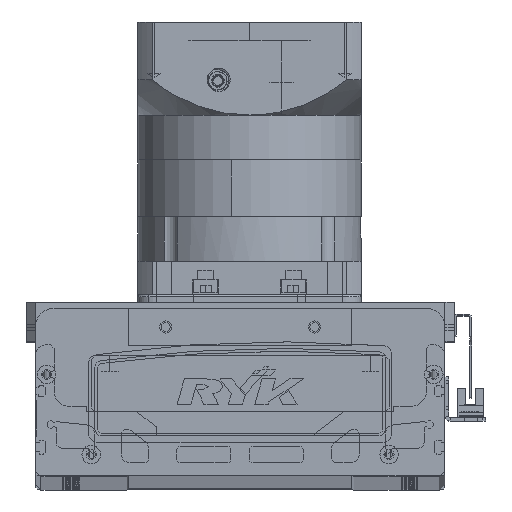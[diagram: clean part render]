
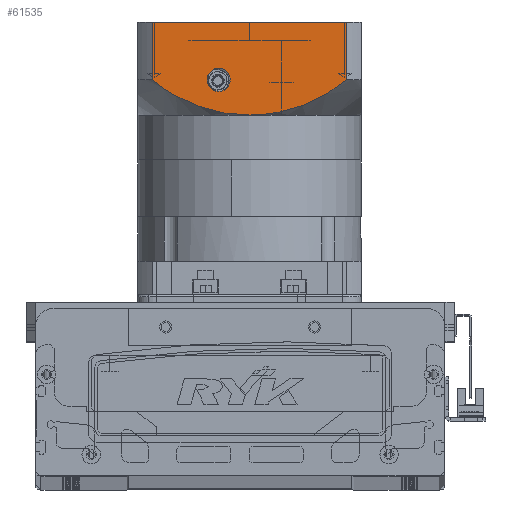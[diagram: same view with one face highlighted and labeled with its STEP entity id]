
A CAD part, top view. The second image highlights one B-rep face of the part: STEP entity #61535.
In plain terms, the highlighted planar face has unit normal (0, 0, 1) as drawn and (0, -1, 0) by its records, which use the part's own axes.
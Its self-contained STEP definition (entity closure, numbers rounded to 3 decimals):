
#317 = CARTESIAN_POINT ( 'NONE',  ( -60., -60., -150.5 ) ) ;
#546 = VECTOR ( 'NONE', #51982, 1000. ) ;
#5080 = CARTESIAN_POINT ( 'NONE',  ( 52.156, -60., -119.5 ) ) ;
#6071 = VERTEX_POINT ( 'NONE', #17658 ) ;
#6221 = DIRECTION ( 'NONE',  ( 1., 0., 0. ) ) ;
#6306 = VECTOR ( 'NONE', #18643, 1000. ) ;
#6689 = VERTEX_POINT ( 'NONE', #82192 ) ;
#8294 = LINE ( 'NONE', #12012, #6306 ) ;
#8899 = DIRECTION ( 'NONE',  ( 0., 0., 1. ) ) ;
#9509 = LINE ( 'NONE', #317, #546 ) ;
#9684 = CARTESIAN_POINT ( 'NONE',  ( -4.747, -60., -100.604 ) ) ;
#9739 = CARTESIAN_POINT ( 'NONE',  ( -32.118, -60., -107.084 ) ) ;
#10070 = ORIENTED_EDGE ( 'NONE', *, *, #70928, .T. ) ;
#10504 = VERTEX_POINT ( 'NONE', #59205 ) ;
#11325 = DIRECTION ( 'NONE',  ( 0., 1., 0. ) ) ;
#11455 = CARTESIAN_POINT ( 'NONE',  ( 41.545, -60., -111.931 ) ) ;
#12012 = CARTESIAN_POINT ( 'NONE',  ( 52.156, -60., -150.5 ) ) ;
#12511 = CARTESIAN_POINT ( 'NONE',  ( 23.329, -60., -103.886 ) ) ;
#12600 = DIRECTION ( 'NONE',  ( 0., -1., 0. ) ) ;
#12608 = ORIENTED_EDGE ( 'NONE', *, *, #15616, .F. ) ;
#12938 = CARTESIAN_POINT ( 'NONE',  ( -18.792, -60., -102.562 ) ) ;
#13784 = CARTESIAN_POINT ( 'NONE',  ( -48.52, -60., -116.438 ) ) ;
#14173 = CARTESIAN_POINT ( 'NONE',  ( -52.156, -60., -150.5 ) ) ;
#15616 = EDGE_CURVE ( 'NONE', #19874, #23933, #66236, .T. ) ;
#16413 = CARTESIAN_POINT ( 'NONE',  ( -23.319, -60., -103.777 ) ) ;
#16712 = EDGE_CURVE ( 'NONE', #6689, #23041, #52662, .T. ) ;
#17658 = CARTESIAN_POINT ( 'NONE',  ( 16.5, -60., -125.75 ) ) ;
#18625 = CARTESIAN_POINT ( 'NONE',  ( 15.267, -60., -101.938 ) ) ;
#18643 = DIRECTION ( 'NONE',  ( 0., 0., 1. ) ) ;
#18746 = CARTESIAN_POINT ( 'NONE',  ( 16.5, -60., -113.25 ) ) ;
#19874 = VERTEX_POINT ( 'NONE', #14173 ) ;
#22842 = AXIS2_PLACEMENT_3D ( 'NONE', #76198, #12600, #6221 ) ;
#23041 = VERTEX_POINT ( 'NONE', #27769 ) ;
#23933 = VERTEX_POINT ( 'NONE', #53131 ) ;
#27415 = ORIENTED_EDGE ( 'NONE', *, *, #44435, .T. ) ;
#27619 = CARTESIAN_POINT ( 'NONE',  ( -11.825, -60., -101.356 ) ) ;
#27769 = CARTESIAN_POINT ( 'NONE',  ( 52.156, -60., -119.5 ) ) ;
#28093 = CARTESIAN_POINT ( 'NONE',  ( -39.546, -60., -110.776 ) ) ;
#29446 = VERTEX_POINT ( 'NONE', #18746 ) ;
#30210 = AXIS2_PLACEMENT_3D ( 'NONE', #62121, #11325, #61300 ) ;
#30334 = CARTESIAN_POINT ( 'NONE',  ( 9.454, -60., -100.914 ) ) ;
#30970 = PLANE ( 'NONE',  #22842 ) ;
#31022 = ORIENTED_EDGE ( 'NONE', *, *, #16712, .F. ) ;
#32388 = EDGE_CURVE ( 'NONE', #23933, #6689, #66429, .T. ) ;
#34339 = FACE_BOUND ( 'NONE', #44463, .T. ) ;
#34630 = CARTESIAN_POINT ( 'NONE',  ( 0., -60., -100.5 ) ) ;
#36684 = CARTESIAN_POINT ( 'NONE',  ( 44.553, -60., -113.817 ) ) ;
#36999 = DIRECTION ( 'NONE',  ( 0., 1., 0. ) ) ;
#37221 = CARTESIAN_POINT ( 'NONE',  ( 18.739, -60., -102.681 ) ) ;
#37267 = DIRECTION ( 'NONE',  ( 0., 0., -1. ) ) ;
#40970 = ORIENTED_EDGE ( 'NONE', *, *, #56236, .T. ) ;
#41103 = CIRCLE ( 'NONE', #57102, 6.25 ) ;
#41997 = CARTESIAN_POINT ( 'NONE',  ( 4.753, -60., -100.5 ) ) ;
#43112 = CARTESIAN_POINT ( 'NONE',  ( 50.338, -60., -117.969 ) ) ;
#43238 = CIRCLE ( 'NONE', #30210, 6.25 ) ;
#43384 = CARTESIAN_POINT ( 'NONE',  ( 48.457, -60., -116.522 ) ) ;
#44190 = CARTESIAN_POINT ( 'NONE',  ( 45.542, -60., -114.478 ) ) ;
#44435 = EDGE_CURVE ( 'NONE', #29446, #6071, #43238, .T. ) ;
#44463 = EDGE_LOOP ( 'NONE', ( #69192, #27415 ) ) ;
#45077 = CARTESIAN_POINT ( 'NONE',  ( -36.409, -60., -109.113 ) ) ;
#47110 = CARTESIAN_POINT ( 'NONE',  ( -44.656, -60., -113.73 ) ) ;
#48148 = CARTESIAN_POINT ( 'NONE',  ( 0., -60., -100.5 ) ) ;
#50051 = EDGE_CURVE ( 'NONE', #6071, #29446, #41103, .T. ) ;
#50739 = ORIENTED_EDGE ( 'NONE', *, *, #32388, .F. ) ;
#51982 = DIRECTION ( 'NONE',  ( 1., 0., 0. ) ) ;
#52662 = B_SPLINE_CURVE_WITH_KNOTS ( 'NONE', 3,
 ( #48148, #41997, #30334, #18625, #81366, #37221, #62529, #12511, #81912, #69460, #68369, #11455, #55869, #36684, #44190, #43384, #43112, #5080 ),
 .UNSPECIFIED., .F., .F.,
 ( 4, 2, 2, 2, 2, 2, 2, 2, 4 ),
 ( 0., 0.014, 0.018, 0.021, 0.028, 0.042, 0.046, 0.05, 0.057 ),
 .UNSPECIFIED. ) ;
#53131 = CARTESIAN_POINT ( 'NONE',  ( -52.156, -60., -119.5 ) ) ;
#53310 = VECTOR ( 'NONE', #8899, 1000. ) ;
#55869 = CARTESIAN_POINT ( 'NONE',  ( 42.555, -60., -112.543 ) ) ;
#56236 = EDGE_CURVE ( 'NONE', #10504, #23041, #8294, .T. ) ;
#56562 = CARTESIAN_POINT ( 'NONE',  ( -8.294, -60., -100.916 ) ) ;
#57102 = AXIS2_PLACEMENT_3D ( 'NONE', #68139, #36999, #37267 ) ;
#57363 = CARTESIAN_POINT ( 'NONE',  ( -12.993, -60., -101.537 ) ) ;
#59205 = CARTESIAN_POINT ( 'NONE',  ( 52.156, -60., -150.5 ) ) ;
#61300 = DIRECTION ( 'NONE',  ( 0., 0., -1. ) ) ;
#61535 = ADVANCED_FACE ( 'NONE', ( #62206, #34339 ), #30970, .T. ) ;
#62121 = CARTESIAN_POINT ( 'NONE',  ( 16.5, -60., -119.5 ) ) ;
#62206 = FACE_OUTER_BOUND ( 'NONE', #81688, .T. ) ;
#62529 = CARTESIAN_POINT ( 'NONE',  ( 19.894, -60., -102.964 ) ) ;
#63215 = CARTESIAN_POINT ( 'NONE',  ( -38.51, -60., -110.207 ) ) ;
#66236 = LINE ( 'NONE', #78027, #53310 ) ;
#66429 = B_SPLINE_CURVE_WITH_KNOTS ( 'NONE', 3,
 ( #70561, #13784, #47110, #28093, #63215, #45077, #71157, #9739, #73358, #16413, #12938, #57363, #27619, #78401, #56562, #9684, #72737, #34630 ),
 .UNSPECIFIED., .F., .F.,
 ( 4, 2, 2, 2, 2, 2, 2, 2, 4 ),
 ( 0., 0.014, 0.018, 0.021, 0.028, 0.042, 0.046, 0.05, 0.057 ),
 .UNSPECIFIED. ) ;
#68139 = CARTESIAN_POINT ( 'NONE',  ( 16.5, -60., -119.5 ) ) ;
#68369 = CARTESIAN_POINT ( 'NONE',  ( 36.444, -60., -108.986 ) ) ;
#69192 = ORIENTED_EDGE ( 'NONE', *, *, #50051, .T. ) ;
#69460 = CARTESIAN_POINT ( 'NONE',  ( 32.196, -60., -107.007 ) ) ;
#70561 = CARTESIAN_POINT ( 'NONE',  ( -52.156, -60., -119.5 ) ) ;
#70928 = EDGE_CURVE ( 'NONE', #19874, #10504, #9509, .T. ) ;
#71157 = CARTESIAN_POINT ( 'NONE',  ( -35.342, -60., -108.587 ) ) ;
#72737 = CARTESIAN_POINT ( 'NONE',  ( -2.376, -60., -100.5 ) ) ;
#73358 = CARTESIAN_POINT ( 'NONE',  ( -29.939, -60., -106.183 ) ) ;
#76198 = CARTESIAN_POINT ( 'NONE',  ( -60., -60., -150.5 ) ) ;
#78027 = CARTESIAN_POINT ( 'NONE',  ( -52.156, -60., -97.5 ) ) ;
#78401 = CARTESIAN_POINT ( 'NONE',  ( -9.477, -60., -101.046 ) ) ;
#81366 = CARTESIAN_POINT ( 'NONE',  ( 16.426, -60., -102.169 ) ) ;
#81688 = EDGE_LOOP ( 'NONE', ( #12608, #10070, #40970, #31022, #50739 ) ) ;
#81912 = CARTESIAN_POINT ( 'NONE',  ( 25.577, -60., -104.596 ) ) ;
#82192 = CARTESIAN_POINT ( 'NONE',  ( 0., -60., -100.5 ) ) ;
